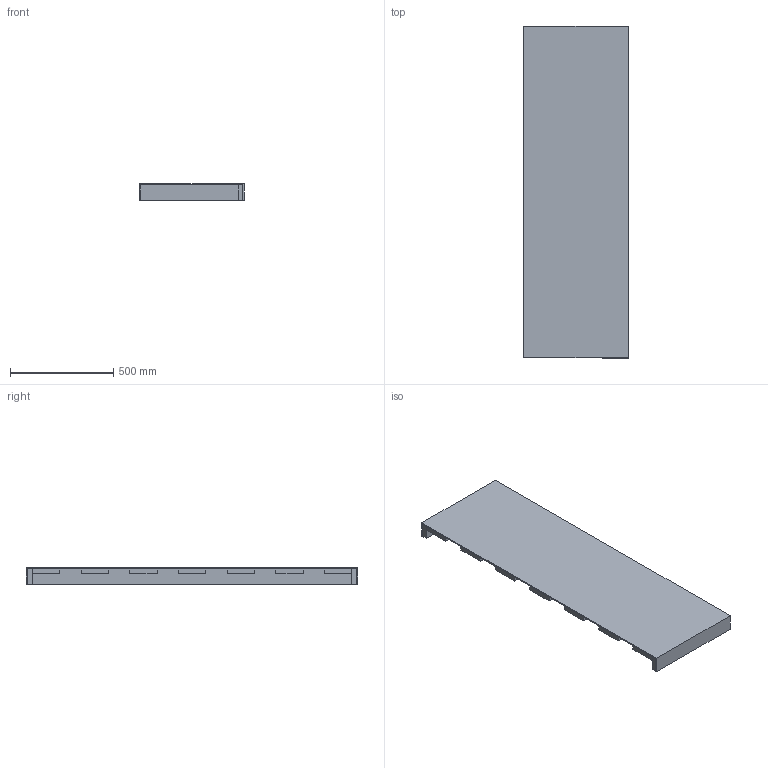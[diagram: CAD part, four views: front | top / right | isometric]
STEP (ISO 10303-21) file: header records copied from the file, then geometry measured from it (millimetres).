
FILE_DESCRIPTION(/* description */ (''),/* implementation_level */ '2;1');
FILE_NAME(/* name */ 'H41914x',/* time_stamp */ '2025-03-13T10:01:18+01:00',/* author */ (''),/* organization */ (''),/* preprocessor_version */ 'ST-DEVELOPER v16.5',/* originating_system */ 'Rhino 7.38',/* authorisation */ '');
FILE_SCHEMA (('AUTOMOTIVE_DESIGN'));
Length unit declared in the file: centimetre
Products named in the file (1): Document
Bounding box: 504 x 1606 x 80 mm (x, y, z)
Volume: 20505926 mm3; surface area: 3613290 mm2
Topology: 11 solids, 11 shells, 70 faces, 144 edges, 96 vertices
Faces by surface type: plane 70
Entity records: 1603 total; most frequent: CARTESIAN_POINT 456, ORIENTED_EDGE 288, EDGE_CURVE 144, B_SPLINE_CURVE_WITH_KNOTS 144, VERTEX_POINT 96, DIRECTION 74, AXIS2_PLACEMENT_3D 72, ADVANCED_FACE 70
